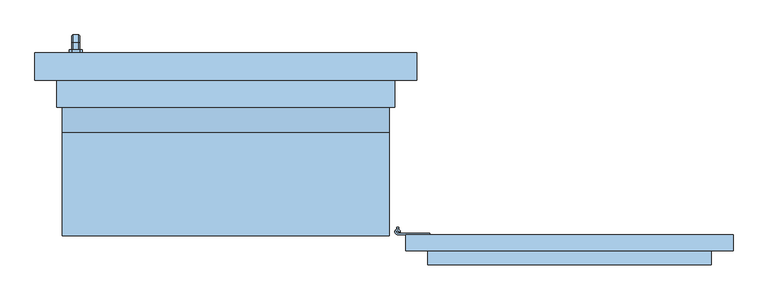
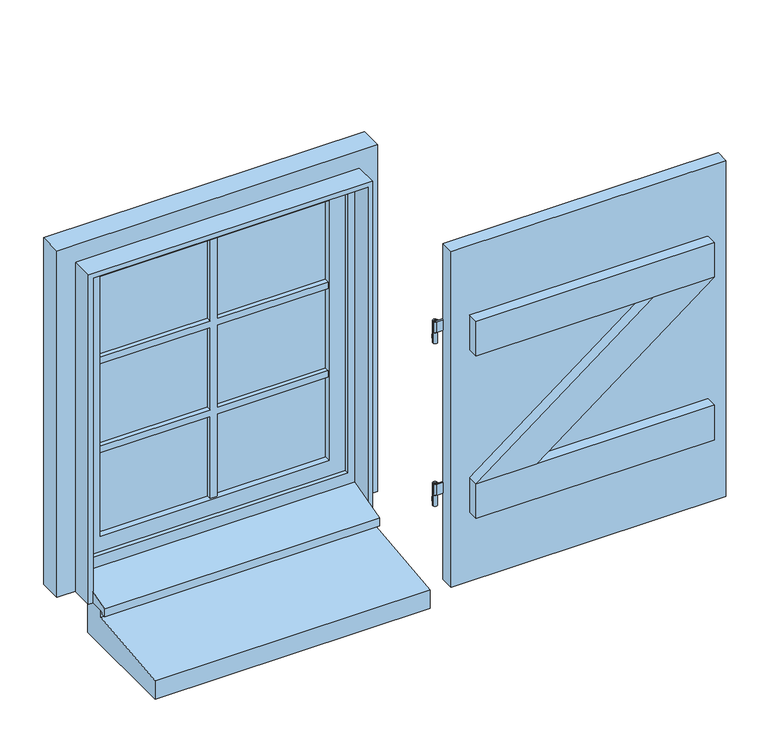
"""IFC4 building model written with IfcOpenShell, lengths in millimetres: window geometry, 1 Vantail droit - Volet et petits bois : 0.60m x 0.75m - Appui Béton."""

import ifcopenshell
import ifcopenshell.guid

model = None  # the IFC model being written
_history = None  # IfcOwnerHistory: only IFC2X3 demands one
_inside = {}  # id of a spatial element -> (the spatial element, [elements in it])
_under = {}  # id of a project, library or spatial element -> (it, [spatial elements below it])
_declared = {}  # id of a project -> (the project, [libraries it declares])
_typed = {}  # id of a type object -> (the type object, [elements of that type])
_made_of = {}  # id of a material, layer set ... -> (it, [elements and type objects made of it])


def new_model(schema):
    """Start an empty IFC model of exactly this schema.

    Asked for "IFC4X3", IfcOpenShell would pick the latest addendum, in which some entities
    have other attributes; the version numbers below select the first issue.
    IFC2X3 requires an IfcOwnerHistory on every rooted entity: one is made here for all.
    """
    global model, _history
    if schema == "IFC4X3":
        model = ifcopenshell.file(schema_version=(4, 3, 0, 0))
    else:
        model = ifcopenshell.file(schema=schema)
    _inside.clear()
    _under.clear()
    _declared.clear()
    _typed.clear()
    _made_of.clear()
    _history = None
    if model.schema == "IFC2X3":
        org = make("IfcOrganization", Name="unknown")
        user = make(
            "IfcPersonAndOrganization",
            ThePerson=make("IfcPerson", FamilyName="unknown"),
            TheOrganization=org,
        )
        app = make(
            "IfcApplication",
            ApplicationDeveloper=org,
            Version="unknown",
            ApplicationFullName="unknown",
            ApplicationIdentifier="unknown",
        )
        _history = make(
            "IfcOwnerHistory",
            OwningUser=user,
            OwningApplication=app,
            ChangeAction="ADDED",
            CreationDate=0,
        )
    return model


def make(cls, **values):
    """One entity of the class cls with the attributes given. An attribute that is None is left unset."""
    return model.create_entity(
        cls, **{name: value for name, value in values.items() if value is not None}
    )


def rooted(cls, **values):
    """An entity with a GlobalId (a new one), such as an element, a storey or a relation."""
    return make(cls, GlobalId=ifcopenshell.guid.new(), OwnerHistory=_history, **values)


def si_unit(unit_type, name, prefix=None):
    """IfcSIUnit, for example si_unit("LENGTHUNIT", "METRE", prefix="MILLI")."""
    return make("IfcSIUnit", UnitType=unit_type, Prefix=prefix, Name=name)


def assignment(units):
    """IfcUnitAssignment: the units of a project."""
    return None if units is None else make("IfcUnitAssignment", Units=units)


def point(xyz):
    """IfcCartesianPoint."""
    return None if xyz is None else make("IfcCartesianPoint", Coordinates=xyz)


def direction(xyz):
    """IfcDirection."""
    return None if xyz is None else make("IfcDirection", DirectionRatios=xyz)


def frame(location, z_axis=None, x_axis=None):
    """IfcAxis2Placement3D, a coordinate frame: its origin and axes. An axis left out is left unset."""
    return make(
        "IfcAxis2Placement3D",
        Location=point(location),
        Axis=direction(z_axis),
        RefDirection=direction(x_axis),
    )


def frame_2d(location, x_axis=None):
    """IfcAxis2Placement2D, a coordinate frame in the plane: its origin and x axis."""
    return make(
        "IfcAxis2Placement2D", Location=point(location), RefDirection=direction(x_axis)
    )


def origin():
    """The frame at (0, 0, 0) with its axes left unset."""
    return frame((0.0, 0.0, 0.0))


def place(relative_to, where):
    """IfcLocalPlacement: puts the frame where relative to a parent placement (None: the world)."""
    return make(
        "IfcLocalPlacement", PlacementRelTo=relative_to, RelativePlacement=where
    )


def context(
    kind, dimensions, precision=None, world=None, true_north=None, identifier=None
):
    """IfcGeometricRepresentationContext, for example the 3D "Model" context."""
    return make(
        "IfcGeometricRepresentationContext",
        ContextIdentifier=identifier,
        ContextType=kind,
        CoordinateSpaceDimension=dimensions,
        Precision=precision,
        WorldCoordinateSystem=world,
        TrueNorth=true_north,
    )


def project(units=None, contexts=None):
    """IfcProject with its units and contexts."""
    return rooted(
        "IfcProject",
        Name="project",
        RepresentationContexts=contexts,
        UnitsInContext=assignment(units),
    )


def spatial(cls, under=None, at=None, **own):
    """A site, building, storey or space (cls), placed at a placement, below another one or the project."""
    s = rooted(cls, ObjectPlacement=at, **own)
    if under is not None:
        _under.setdefault(under.id(), (under, []))[1].append(s)
    return s


def polyline(points):
    """IfcPolyline through the points."""
    return make("IfcPolyline", Points=[point(p) for p in points])


def circle_curve(where, radius):
    """IfcCircle in the frame where."""
    return make("IfcCircle", Position=where, Radius=radius)


def trimmed(basis, trim1, trim2, sense, master):
    """IfcTrimmedCurve: the piece of a basis curve between two trims."""
    return make(
        "IfcTrimmedCurve",
        BasisCurve=basis,
        Trim1=trim1,
        Trim2=trim2,
        SenseAgreement=sense,
        MasterRepresentation=master,
    )


def segment(curve, same_sense, transition):
    """IfcCompositeCurveSegment."""
    return make(
        "IfcCompositeCurveSegment",
        Transition=transition,
        SameSense=same_sense,
        ParentCurve=curve,
    )


def composite_curve(segments, self_intersect=None):
    """IfcCompositeCurve: segments joined end to end."""
    return make("IfcCompositeCurve", Segments=segments, SelfIntersect=self_intersect)


def outline(outer, holes=None, kind="AREA"):
    """IfcArbitraryClosedProfileDef: a profile drawn as a closed curve; with holes, ...WithVoids."""
    if holes is None:
        return make("IfcArbitraryClosedProfileDef", ProfileType=kind, OuterCurve=outer)
    return make(
        "IfcArbitraryProfileDefWithVoids",
        ProfileType=kind,
        OuterCurve=outer,
        InnerCurves=holes,
    )


def extrude(swept, where, along, depth):
    """IfcExtrudedAreaSolid: the profile swept, set in the frame where, extruded along a direction by depth."""
    return make(
        "IfcExtrudedAreaSolid",
        SweptArea=swept,
        Position=where,
        ExtrudedDirection=direction(along),
        Depth=depth,
    )


def faces_of(points, faces, orient=None, outer=None):
    """IfcFace entities. A face is a list of loops; a loop is a list of indices into points, from 0.

    orient and outer hold one flag for each loop. By default every Orientation is true, the
    first loop of a face is its IfcFaceOuterBound and the others are IfcFaceBound.
    """
    made = []
    for i, loops in enumerate(faces):
        bounds = []
        for j, loop in enumerate(loops):
            is_outer = j == 0 if outer is None else outer[i][j]
            bounds.append(
                make(
                    "IfcFaceOuterBound" if is_outer else "IfcFaceBound",
                    Bound=make("IfcPolyLoop", Polygon=[points[k] for k in loop]),
                    Orientation=True if orient is None else orient[i][j],
                )
            )
        made.append(make("IfcFace", Bounds=bounds))
    return made


def faceted_brep(points, faces, orient=None, outer=None, voids=None):
    """IfcFacetedBrep: a solid bounded by flat faces; with voids (closed shells), ...WithVoids."""
    shared = [point(p) for p in points]
    hull = make("IfcClosedShell", CfsFaces=faces_of(shared, faces, orient, outer))
    if voids is None:
        return make("IfcFacetedBrep", Outer=hull)
    return make(
        "IfcFacetedBrepWithVoids",
        Outer=hull,
        Voids=[
            make(cls, CfsFaces=faces_of(shared, fs, o, b)) for cls, fs, o, b in voids
        ],
    )


def shape(context_of_items, identifier, shape_type, items):
    """IfcShapeRepresentation: the items that make up one representation, for example the "Body"."""
    return make(
        "IfcShapeRepresentation",
        ContextOfItems=context_of_items,
        RepresentationIdentifier=identifier,
        RepresentationType=shape_type,
        Items=items,
    )


def source(mapping_origin, context_of_items, identifier, shape_type, items):
    """IfcRepresentationMap: a shape defined once, which mapped items show again and again."""
    return make(
        "IfcRepresentationMap",
        MappingOrigin=mapping_origin,
        MappedRepresentation=shape(context_of_items, identifier, shape_type, items),
    )


def transform(
    local_origin,
    x_axis=None,
    y_axis=None,
    z_axis=None,
    scale=None,
    scale2=None,
    scale3=None,
    uniform=True,
):
    """IfcCartesianTransformationOperator3D, or its non-uniform kind. x_axis, y_axis, z_axis: its Axis1, 2, 3."""
    if uniform:
        return make(
            "IfcCartesianTransformationOperator3D",
            Axis1=direction(x_axis),
            Axis2=direction(y_axis),
            LocalOrigin=point(local_origin),
            Scale=scale,
            Axis3=direction(z_axis),
        )
    return make(
        "IfcCartesianTransformationOperator3DnonUniform",
        Axis1=direction(x_axis),
        Axis2=direction(y_axis),
        LocalOrigin=point(local_origin),
        Scale=scale,
        Axis3=direction(z_axis),
        Scale2=scale2,
        Scale3=scale3,
    )


def mapped(mapping_source, mapping_target):
    """IfcMappedItem: shows the shape of a source again, moved by a transform."""
    return make(
        "IfcMappedItem", MappingSource=mapping_source, MappingTarget=mapping_target
    )


def made_of(thing, what):
    """Note that an element or type object is made of a material, layer set ...; save() writes the relation."""
    if what is not None:
        _made_of.setdefault(what.id(), (what, []))[1].append(thing)
    return thing


def element(
    cls,
    number,
    at=None,
    inside=None,
    cuts=None,
    type_object=None,
    material=None,
    context=None,
    identifier="Body",
    shape_type=None,
    held_by="IfcProductDefinitionShape",
    body=None,
    shapes=None,
    **own,
):
    """One element of the class cls, such as IfcWall. Its Tag is "e" and its number.

    at: its placement. inside: the storey or other place that contains it. cuts: it is an
    opening in that element (IfcRelVoidsElement). A single representation is given by context,
    identifier, shape_type and body (its items); several are given by shapes. held_by: the class
    of the entity that holds the representations. save() writes the other relations.
    """
    e = rooted(cls, Tag="e%d" % number, ObjectPlacement=at, **own)
    if body is not None:
        shapes = [shape(context, identifier, shape_type, body)]
    if shapes is not None:
        e.Representation = make(held_by, Representations=shapes)
    if inside is not None:
        _inside.setdefault(inside.id(), (inside, []))[1].append(e)
    if cuts is not None:
        rooted(
            "IfcRelVoidsElement", RelatingBuildingElement=cuts, RelatedOpeningElement=e
        )
    if type_object is not None:
        _typed.setdefault(type_object.id(), (type_object, []))[1].append(e)
    return made_of(e, material)


def aggregate(whole, parts):
    """IfcRelAggregates: a whole, such as a stair, and the parts it consists of."""
    return rooted("IfcRelAggregates", RelatingObject=whole, RelatedObjects=parts)


def save(model, path):
    """Write the relations noted so far, then the file.

    IfcRelAggregates (storeys below a building ...), IfcRelContainedInSpatialStructure (elements
    in a storey), IfcRelDefinesByType, IfcRelAssociatesMaterial and IfcRelDeclares: one each for
    every whole, place, type object, material and project.
    """
    for whole, parts in _under.values():
        aggregate(whole, parts)
    for where, things in _inside.values():
        rooted(
            "IfcRelContainedInSpatialStructure",
            RelatedElements=things,
            RelatingStructure=where,
        )
    for kind, things in _typed.values():
        rooted("IfcRelDefinesByType", RelatedObjects=things, RelatingType=kind)
    for what, things in _made_of.values():
        rooted("IfcRelAssociatesMaterial", RelatedObjects=things, RelatingMaterial=what)
    for by, libraries in _declared.values():
        rooted("IfcRelDeclares", RelatingContext=by, RelatedDefinitions=libraries)
    model.write(path)


def plane_surface(at):
    """IfcPlane: the flat surface through the origin of the frame at, square to its z axis."""
    return make("IfcPlane", Position=at)


def cylinder_surface(at, radius):
    """IfcCylindricalSurface: all points at the distance radius from the z axis of the frame at."""
    return make("IfcCylindricalSurface", Position=at, Radius=radius)


def advanced_brep(points, edges, surfaces, faces):
    """IfcAdvancedBrep: a solid bounded by faces that lie on surfaces and meet in shared edges.

    An edge is (start, end): straight between two places in points (the first is 0);
    or (start, end, curve); or (start, end, curve, False) where it runs against its curve.
    A face is (place in surfaces, loops), or (place, loops, False) where it looks against
    its surface's normal. A loop lists edges by number (the first is 1), with a minus sign
    where the edge is run from its end to its start. The first loop is the outer one.
    """
    corners = [point(p) for p in points]
    vertices = [make("IfcVertexPoint", VertexGeometry=c) for c in corners]
    made = []
    for start, end, *more in edges:
        made.append(
            make(
                "IfcEdgeCurve",
                EdgeStart=vertices[start],
                EdgeEnd=vertices[end],
                EdgeGeometry=more[0] if more else make("IfcPolyline", Points=[corners[start], corners[end]]),
                SameSense=more[1] if len(more) > 1 else True,
            )
        )
    hull = []
    for where, loops, *sense in faces:
        bounds = []
        for j, loop in enumerate(loops):
            ring = [make("IfcOrientedEdge", EdgeElement=made[abs(k) - 1], Orientation=k > 0) for k in loop]
            bounds.append(
                make(
                    "IfcFaceOuterBound" if j == 0 else "IfcFaceBound",
                    Bound=make("IfcEdgeLoop", EdgeList=ring),
                    Orientation=True,
                )
            )
        hull.append(make("IfcAdvancedFace", Bounds=bounds, FaceSurface=surfaces[where], SameSense=sense[0] if sense else True))
    return make("IfcAdvancedBrep", Outer=make("IfcClosedShell", CfsFaces=hull))


def window_058ce6a6(model_context):
    return source(origin(), model_context, "Body", "SolidModel", [
        extrude(outline(polyline([(930.0, -173.0), (930.0, -203.0), (330.0, -203.0), (330.0, -173.0), (930.0, -173.0)])), frame((0.0, 0.0, 775.0), z_axis=(0.0, 0.0, 1.0), x_axis=(1.0, 0.0, 0.0)), (0.0, 0.0, 1.0), 775.0),
        advanced_brep(
        [(310.0, -168.0, 975.0), (320.0, -168.0, 975.0), (310.0, -168.0, 950.0), (320.0, -168.0, 950.0), (317.0, -163.4174243, 955.0), (317.0, -163.4174243, 965.0), (313.0, -163.4174243, 965.0), (313.0, -163.4174243, 955.0), (313.0, -160.0, 965.0), (317.0, -160.0, 965.0), (317.0, -160.0, 955.0), (313.0, -160.0, 955.0)],
        [
            (0, 1, circle_curve(frame((315.0, -168.0, 975.0), z_axis=(0.0, 0.0, 1.0), x_axis=(1.0, 0.0, 0.0)), 5.0)),
            (1, 0, circle_curve(frame((315.0, -168.0, 975.0), z_axis=(0.0, 0.0, 1.0), x_axis=(1.0, 0.0, 0.0)), 5.0)),
            (2, 3, circle_curve(frame((315.0, -168.0, 950.0), z_axis=(0.0, 0.0, -1.0), x_axis=(1.0, 0.0, 0.0)), 5.0)),
            (3, 2, circle_curve(frame((315.0, -168.0, 950.0), z_axis=(0.0, 0.0, -1.0), x_axis=(1.0, 0.0, 0.0)), 5.0)),
            (1, 3),
            (2, 0),
            (4, 5),
            (5, 6, circle_curve(frame((315.0, -168.0, 965.0), z_axis=(0.0, 0.0, 1.0), x_axis=(1.0, 0.0, 0.0)), 5.0)),
            (6, 7),
            (7, 4, circle_curve(frame((315.0, -168.0, 955.0), z_axis=(0.0, 0.0, -1.0), x_axis=(1.0, 0.0, 0.0)), 5.0)),
            (8, 6),
            (5, 9),
            (9, 8),
            (10, 4),
            (7, 11),
            (11, 10),
            (10, 9),
            (8, 11),
        ],
        [
            plane_surface(frame((320.0, -168.0, 975.0), z_axis=(0.0, 0.0, 1.0), x_axis=(0.0, -1.0, 0.0))),
            plane_surface(frame((320.0, -168.0, 950.0), z_axis=(0.0, 0.0, -1.0), x_axis=(0.0, 1.0, 0.0))),
            cylinder_surface(frame((315.0, -168.0, 950.0), z_axis=(0.0, 0.0, 1.0), x_axis=(1.0, 0.0, 0.0)), 5.0),
            plane_surface(frame((317.0, -160.0, 965.0), z_axis=(0.0, 0.0, 1.0), x_axis=(0.0, -1.0, 0.0))),
            plane_surface(frame((317.0, -160.0, 955.0), z_axis=(0.0, 0.0, -1.0), x_axis=(0.0, 1.0, 0.0))),
            plane_surface(frame((317.0, -160.0, 965.0), z_axis=(1.0, 0.0, 0.0), x_axis=(0.0, 0.0, -1.0))),
            plane_surface(frame((313.0, -165.0, 965.0), z_axis=(-1.0, 0.0, 0.0), x_axis=(0.0, 0.0, -1.0))),
            plane_surface(frame((313.0, -160.0, 965.0), z_axis=(0.0, 1.0, 0.0), x_axis=(0.0, 0.0, -1.0))),
        ],
        [
            (0, [[1, 2]]),
            (1, [[3, 4]]),
            (2, [[5, -3, 6, -2], [7, 8, 9, 10]]),
            (2, [[-6, -4, -5, -1]]),
            (3, [[11, -8, 12, 13]]),
            (4, [[14, -10, 15, 16]]),
            (5, [[-12, -7, -14, 17]]),
            (6, [[-15, -9, -11, 18]]),
            (7, [[-17, -16, -18, -13]]),
        ],
    ),
        extrude(outline(composite_curve([segment(trimmed(circle_curve(frame_2d((315.0, -168.0)), 5.0), [point((315.0, -173.0))], [point((320.0, -168.0))], False, "CARTESIAN"), True, "CONTINUOUS"), segment(polyline([(320.0, -168.0), (317.5, -168.0)]), True, "CONTINUOUS"), segment(trimmed(circle_curve(frame_2d((315.0, -168.0)), 2.5), [point((317.5, -168.0))], [point((315.0, -170.5))], True, "CARTESIAN"), True, "CONTINUOUS"), segment(polyline([(315.0, -170.5), (374.3092325, -170.5), (374.3092325, -173.0), (315.0, -173.0)]), True, "CONTINUOUS")], self_intersect=False)), frame((0.0, 0.0, 975.0), z_axis=(0.0, 0.0, 1.0), x_axis=(1.0, 0.0, 0.0)), (0.0, 0.0, 1.0), 25.0),
        extrude(outline(composite_curve([segment(trimmed(circle_curve(frame_2d((315.0, -168.0)), 2.5), [point((312.5, -168.0))], [point((317.5, -168.0))], False, "CARTESIAN"), True, "CONTINUOUS"), segment(trimmed(circle_curve(frame_2d((315.0, -168.0)), 2.5), [point((317.5, -168.0))], [point((312.5, -168.0))], False, "CARTESIAN"), True, "CONTINUOUS")], self_intersect=False)), frame((0.0, 0.0, 975.0), z_axis=(0.0, 0.0, 1.0), x_axis=(1.0, 0.0, 0.0)), (0.0, 0.0, 1.0), 25.0),
        advanced_brep(
        [(310.0, -168.0, 1350.0), (320.0, -168.0, 1350.0), (310.0, -168.0, 1325.0), (320.0, -168.0, 1325.0), (313.0, -163.4174243, 1340.0), (313.0, -163.4174243, 1330.0), (317.0, -163.4174243, 1330.0), (317.0, -163.4174243, 1340.0), (313.0, -160.0, 1340.0), (317.0, -160.0, 1340.0), (313.0, -160.0, 1330.0), (317.0, -160.0, 1330.0)],
        [
            (0, 1, circle_curve(frame((315.0, -168.0, 1350.0), z_axis=(0.0, 0.0, 1.0), x_axis=(1.0, 0.0, 0.0)), 5.0)),
            (1, 0, circle_curve(frame((315.0, -168.0, 1350.0), z_axis=(0.0, 0.0, 1.0), x_axis=(1.0, 0.0, 0.0)), 5.0)),
            (2, 3, circle_curve(frame((315.0, -168.0, 1325.0), z_axis=(0.0, 0.0, -1.0), x_axis=(1.0, 0.0, 0.0)), 5.0)),
            (3, 2, circle_curve(frame((315.0, -168.0, 1325.0), z_axis=(0.0, 0.0, -1.0), x_axis=(1.0, 0.0, 0.0)), 5.0)),
            (1, 3),
            (2, 0),
            (4, 5),
            (5, 6, circle_curve(frame((315.0, -168.0, 1330.0), z_axis=(0.0, 0.0, -1.0), x_axis=(1.0, 0.0, 0.0)), 5.0)),
            (6, 7),
            (7, 4, circle_curve(frame((315.0, -168.0, 1340.0), z_axis=(0.0, 0.0, 1.0), x_axis=(1.0, 0.0, 0.0)), 5.0)),
            (8, 4),
            (7, 9),
            (9, 8),
            (10, 11),
            (11, 6),
            (5, 10),
            (9, 11),
            (10, 8),
        ],
        [
            plane_surface(frame((320.0, -168.0, 1350.0), z_axis=(0.0, 0.0, 1.0), x_axis=(0.0, -1.0, 0.0))),
            plane_surface(frame((320.0, -168.0, 1325.0), z_axis=(0.0, 0.0, -1.0), x_axis=(0.0, 1.0, 0.0))),
            cylinder_surface(frame((315.0, -168.0, 1325.0), z_axis=(0.0, 0.0, 1.0), x_axis=(1.0, 0.0, 0.0)), 5.0),
            plane_surface(frame((313.0, -160.0, 1340.0), z_axis=(0.0, 0.0, 1.0), x_axis=(1.0, 0.0, 0.0))),
            plane_surface(frame((313.0, -160.0, 1330.0), z_axis=(0.0, 0.0, -1.0), x_axis=(-1.0, 0.0, 0.0))),
            plane_surface(frame((313.0, -160.0, 1340.0), z_axis=(0.0, 1.0, 0.0), x_axis=(0.0, 0.0, -1.0))),
            plane_surface(frame((317.0, -160.0, 1340.0), z_axis=(1.0, 0.0, 0.0), x_axis=(0.0, 0.0, -1.0))),
            plane_surface(frame((313.0, -163.4174243, 1340.0), z_axis=(-1.0, 0.0, 0.0), x_axis=(0.0, 0.0, -1.0))),
        ],
        [
            (0, [[1, 2]]),
            (1, [[3, 4]]),
            (2, [[5, -3, 6, -2], [7, 8, 9, 10]]),
            (2, [[-6, -4, -5, -1]]),
            (3, [[11, -10, 12, 13]]),
            (4, [[14, 15, -8, 16]]),
            (5, [[17, -14, 18, -13]]),
            (6, [[-9, -15, -17, -12]]),
            (7, [[-18, -16, -7, -11]]),
        ],
    ),
        extrude(outline(composite_curve([segment(trimmed(circle_curve(frame_2d((315.0, -168.0)), 5.0), [point((315.0, -173.0))], [point((320.0, -168.0))], False, "CARTESIAN"), True, "CONTINUOUS"), segment(polyline([(320.0, -168.0), (317.5, -168.0)]), True, "CONTINUOUS"), segment(trimmed(circle_curve(frame_2d((315.0, -168.0)), 2.5), [point((317.5, -168.0))], [point((315.0, -170.5))], True, "CARTESIAN"), True, "CONTINUOUS"), segment(polyline([(315.0, -170.5), (374.3092325, -170.5), (374.3092325, -173.0), (315.0, -173.0)]), True, "CONTINUOUS")], self_intersect=False)), frame((0.0, 0.0, 1350.0), z_axis=(0.0, 0.0, 1.0), x_axis=(1.0, 0.0, 0.0)), (0.0, 0.0, 1.0), 25.0),
        extrude(outline(composite_curve([segment(trimmed(circle_curve(frame_2d((315.0, -168.0)), 2.5), [point((312.5, -168.0))], [point((317.5, -168.0))], False, "CARTESIAN"), True, "CONTINUOUS"), segment(trimmed(circle_curve(frame_2d((315.0, -168.0)), 2.5), [point((317.5, -168.0))], [point((312.5, -168.0))], False, "CARTESIAN"), True, "CONTINUOUS")], self_intersect=False)), frame((0.0, 0.0, 1350.0), z_axis=(0.0, 0.0, 1.0), x_axis=(1.0, 0.0, 0.0)), (0.0, 0.0, 1.0), 25.0),
        extrude(outline(polyline([(1310.0, 890.0), (1310.0, 757.8528094), (1015.0, 370.0007252), (1015.0, 502.1479158), (1310.0, 890.0)])), frame((0.0, -228.0, 0.0), z_axis=(0.0, 1.0, 0.0), x_axis=(0.0, 0.0, 1.0)), (0.0, 0.0, 1.0), 25.0),
        extrude(outline(polyline([(370.0, -228.0), (370.0, -203.0), (890.0, -203.0), (890.0, -228.0), (370.0, -228.0)])), frame((0.0, 0.0, 1310.0), z_axis=(0.0, 0.0, 1.0), x_axis=(1.0, 0.0, 0.0)), (0.0, 0.0, 1.0), 80.0),
        extrude(outline(polyline([(370.0, -228.0), (370.0, -203.0), (890.0, -203.0), (890.0, -228.0), (370.0, -228.0)])), frame((0.0, 0.0, 935.0), z_axis=(0.0, 0.0, 1.0), x_axis=(1.0, 0.0, 0.0)), (0.0, 0.0, 1.0), 80.0),
        extrude(outline(polyline([(1310.0, -250.0), (1295.0, -250.0), (1295.0, -7.5), (1105.0, -7.5), (1105.0, -250.0), (1090.0, -250.0), (1090.0, -7.5), (900.0, -7.5), (900.0, 7.5), (1090.0, 7.5), (1090.0, 250.0), (1105.0, 250.0), (1105.0, 7.5), (1295.0, 7.5), (1295.0, 250.0), (1310.0, 250.0), (1310.0, 7.5), (1500.0, 7.5), (1500.0, -7.5), (1310.0, -7.5), (1310.0, -250.0)])), frame((0.0, 124.0, 0.0), z_axis=(0.0, 1.0, 0.0), x_axis=(0.0, 0.0, 1.0)), (0.0, 0.0, 1.0), 10.0),
        extrude(outline(polyline([(1310.0, -250.0), (1295.0, -250.0), (1295.0, -7.5), (1105.0, -7.5), (1105.0, -250.0), (1090.0, -250.0), (1090.0, -7.5), (900.0, -7.5), (900.0, 7.5), (1090.0, 7.5), (1090.0, 250.0), (1105.0, 250.0), (1105.0, 7.5), (1295.0, 7.5), (1295.0, 250.0), (1310.0, 250.0), (1310.0, 7.5), (1500.0, 7.5), (1500.0, -7.5), (1310.0, -7.5), (1310.0, -250.0)])), frame((0.0, 146.0, 0.0), z_axis=(0.0, 1.0, 0.0), x_axis=(0.0, 0.0, 1.0)), (0.0, 0.0, 1.0), 10.0),
        faceted_brep([(-269.3539903, 166.0, 1422.0339292), (-280.6460097, 166.0, 1422.0339292), (-282.0339292, 166.0, 1420.6460097), (-282.0339292, 166.0, 1409.3323012), (-280.6676988, 166.0, 1407.9660708), (-269.3323012, 166.0, 1407.9660708), (-267.9660708, 166.0, 1409.3323012), (-267.9660708, 166.0, 1420.6460097), (-267.9660708, 178.3386538, 1420.6460097), (-269.3539903, 178.9135489, 1422.0339292), (-267.9660708, 173.6523623, 1409.3323012), (-267.9660708, 180.3323012, 1402.6523623), (-267.9660708, 180.3323012, 1320.0), (-267.9660708, 191.6460097, 1320.0), (-267.9660708, 191.6460097, 1407.3386538), (-269.3323012, 173.0864511, 1407.9660708), (-280.6676988, 173.0864511, 1407.9660708), (-282.0339292, 173.6523623, 1409.3323012), (-282.0339292, 178.3386538, 1420.6460097), (-282.0339292, 191.6460097, 1407.3386538), (-282.0339292, 191.6460097, 1320.0), (-282.0339292, 180.3323012, 1320.0), (-282.0339292, 180.3323012, 1402.6523623), (-280.6460097, 178.9135489, 1422.0339292), (-269.3539903, 193.0339292, 1407.9135489), (-269.3323012, 178.9660708, 1402.0864511), (-280.6676988, 178.9660708, 1402.0864511), (-280.6460097, 193.0339292, 1407.9135489), (-269.3539903, 193.0339292, 1320.0), (-269.3323012, 178.9660708, 1320.0), (-280.6676988, 178.9660708, 1320.0), (-280.6460097, 193.0339292, 1320.0)], [[[0, 1, 2, 3, 4, 5, 6, 7]], [[7, 8, 9, 0]], [[6, 10, 11, 12, 13, 14, 8, 7]], [[5, 15, 10, 6]], [[4, 16, 15, 5]], [[3, 17, 16, 4]], [[2, 18, 19, 20, 21, 22, 17, 3]], [[1, 23, 18, 2]], [[0, 9, 23, 1]], [[8, 14, 24, 9]], [[15, 25, 11, 10]], [[16, 26, 25, 15]], [[17, 22, 26, 16]], [[23, 27, 19, 18]], [[9, 24, 27, 23]], [[28, 13, 12, 29, 30, 21, 20, 31]], [[14, 13, 28, 24]], [[25, 29, 12, 11]], [[26, 30, 29, 25]], [[22, 21, 30, 26]], [[27, 31, 20, 19]], [[24, 28, 31, 27]]]),
        extrude(outline(polyline([(1440.0, -268.0), (1440.0, -282.0), (1435.0, -287.0), (1365.0, -287.0), (1360.0, -282.0), (1360.0, -268.0), (1365.0, -263.0), (1435.0, -263.0), (1440.0, -268.0)])), frame((0.0, 160.0, 0.0), z_axis=(0.0, 1.0, 0.0), x_axis=(0.0, 0.0, 1.0)), (0.0, 0.0, 1.0), 6.0),
        extrude(outline(polyline([(80.0, 800.0), (80.0, 720.0), (-175.0, 720.0), (-175.0, 763.4536318), (30.0, 785.0), (30.0, 800.0), (80.0, 800.0)])), frame((-300.0, 0.0, 0.0), z_axis=(1.0, 0.0, 0.0), x_axis=(0.0, 1.0, 0.0)), (0.0, 0.0, 1.0), 600.0),
        extrude(outline(polyline([(-250.0, 134.0), (-250.0, 146.0), (250.0, 146.0), (250.0, 134.0), (-250.0, 134.0)])), frame((0.0, 0.0, 900.0), z_axis=(0.0, 0.0, 1.0), x_axis=(1.0, 0.0, 0.0)), (0.0, 0.0, 1.0), 600.0),
        extrude(outline(polyline([(850.0, -300.0), (850.0, 300.0), (1550.0, 300.0), (1550.0, -300.0), (850.0, -300.0)]), holes=[polyline([(900.0, 250.0), (900.0, -250.0), (1500.0, -250.0), (1500.0, 250.0), (900.0, 250.0)])]), frame((0.0, 120.0, 0.0), z_axis=(0.0, 1.0, 0.0), x_axis=(0.0, 0.0, 1.0)), (0.0, 0.0, 1.0), 40.0),
        faceted_brep([(-350.0, 160.0, 800.0), (350.0, 160.0, 800.0), (350.0, 110.0, 800.0), (300.0, 110.0, 800.0), (300.0, 25.0, 800.0), (-300.0, 25.0, 800.0), (-300.0, 110.0, 800.0), (-350.0, 110.0, 800.0), (-350.0, 110.0, 1600.0), (-350.0, 160.0, 1600.0), (-300.0, 110.0, 839.3761425), (300.0, 110.0, 839.3761425), (350.0, 110.0, 1600.0), (-285.0, 110.0, 1535.0), (285.0, 110.0, 1535.0), (285.0, 110.0, 865.0), (-285.0, 110.0, 865.0), (-300.0, 25.0, 795.0), (-300.0, 15.0, 795.0), (-300.0, 15.0, 813.9209692), (300.0, 25.0, 795.0), (300.0, 15.0, 813.9209692), (300.0, 15.0, 795.0), (350.0, 160.0, 1600.0), (300.0, 160.0, 1550.0), (-300.0, 160.0, 1550.0), (-300.0, 160.0, 850.0), (300.0, 160.0, 850.0), (-285.0, 120.0, 865.0), (-285.0, 120.0, 1535.0), (285.0, 120.0, 865.0), (285.0, 120.0, 1535.0), (300.0, 120.0, 1550.0), (300.0, 120.0, 850.0), (-300.0, 120.0, 850.0), (-300.0, 120.0, 1550.0)], [[[0, 1, 2, 3, 4, 5, 6, 7]], [[7, 8, 9, 0]], [[7, 6, 10, 11, 3, 2, 12, 8], [13, 14, 15, 16]], [[10, 6, 5, 17, 18, 19]], [[5, 4, 20, 17]], [[4, 3, 11, 21, 22, 20]], [[2, 1, 23, 12]], [[0, 9, 23, 1], [24, 25, 26, 27]], [[13, 16, 28, 29]], [[28, 16, 15, 30]], [[31, 30, 15, 14]], [[19, 21, 11, 10]], [[32, 33, 34, 35], [29, 28, 30, 31]], [[34, 26, 25, 35]], [[26, 34, 33, 27]], [[24, 27, 33, 32]], [[18, 22, 21, 19]], [[17, 20, 22, 18]], [[13, 29, 31, 14]], [[35, 25, 24, 32]], [[12, 23, 9, 8]]]),
        extrude(outline(polyline([(800.0, -300.0), (1550.0, -300.0), (1550.0, 300.0), (800.0, 300.0), (800.0, 310.0), (1560.0, 310.0), (1560.0, -310.0), (800.0, -310.0), (800.0, -300.0)])), frame((0.0, 60.0, 0.0), z_axis=(0.0, 1.0, 0.0), x_axis=(0.0, 0.0, 1.0)), (0.0, 0.0, 1.0), 50.0),
    ])


if __name__ == "__main__":
    model = new_model("IFC4")
    model_context = context("Model", 3, world=origin())
    ifc_project = project(units=[si_unit("LENGTHUNIT", "METRE", prefix="MILLI")], contexts=[model_context])
    site = spatial("IfcSite", under=ifc_project)
    building = spatial("IfcBuilding", under=site)
    placement = place(None, origin())
    window_shape = window_058ce6a6(model_context)
    element("IfcWindow", 1, ObjectType="1 Vantail droit - Volet et petits bois : 0.60m x 0.75m - Appui Béton", at=placement, inside=building, context=model_context, shape_type="MappedRepresentation", body=[
        mapped(window_shape, transform((0.0, 0.0, 0.0), x_axis=(1.0, 0.0, 0.0), y_axis=(0.0, 1.0, 0.0), z_axis=(0.0, 0.0, 1.0))),
    ])
    save(model, "model.ifc")
